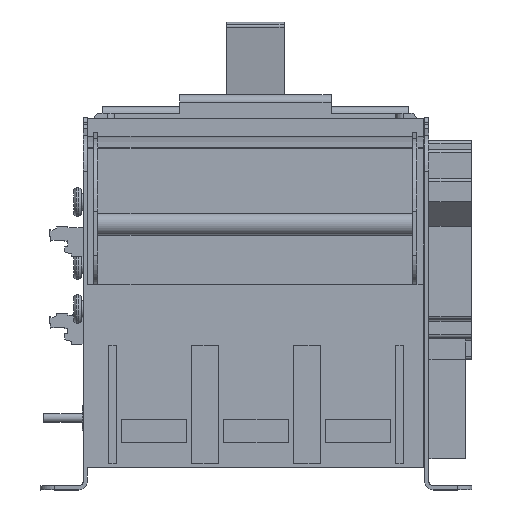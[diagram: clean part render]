
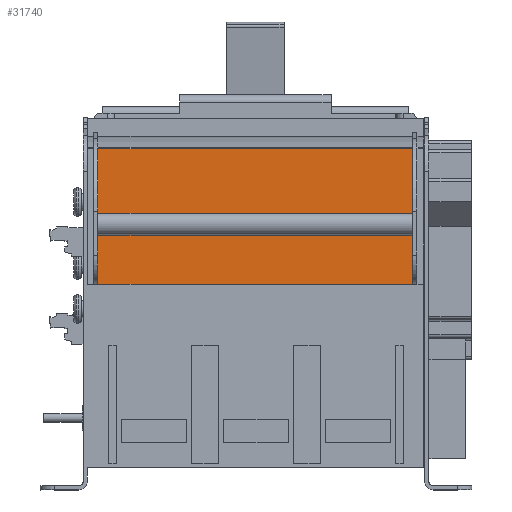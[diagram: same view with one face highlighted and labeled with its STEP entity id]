
A CAD part, front view. The second image highlights one B-rep face of the part: STEP entity #31740.
In plain terms, the highlighted planar face has unit normal (0, -1, 0).
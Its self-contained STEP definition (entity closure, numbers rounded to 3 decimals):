
#159 = VERTEX_POINT ( 'NONE', #8569 ) ;
#1025 = DIRECTION ( 'NONE',  ( 0., 0., -1. ) ) ;
#1980 = DIRECTION ( 'NONE',  ( 1., 0., 0. ) ) ;
#4590 = PLANE ( 'NONE',  #6857 ) ;
#5524 = CARTESIAN_POINT ( 'NONE',  ( -115.7, -203.55, 234.303 ) ) ;
#6030 = VECTOR ( 'NONE', #26075, 1000. ) ;
#6857 = AXIS2_PLACEMENT_3D ( 'NONE', #24297, #14196, #1025 ) ;
#8362 = ORIENTED_EDGE ( 'NONE', *, *, #33281, .T. ) ;
#8495 = CARTESIAN_POINT ( 'NONE',  ( -108., -203.55, 234.303 ) ) ;
#8569 = CARTESIAN_POINT ( 'NONE',  ( -108., -203.55, 234.303 ) ) ;
#9041 = LINE ( 'NONE', #8495, #25536 ) ;
#9497 = CARTESIAN_POINT ( 'NONE',  ( 108., -203.55, 234.303 ) ) ;
#12103 = CARTESIAN_POINT ( 'NONE',  ( -108., -203.55, 141.3 ) ) ;
#14196 = DIRECTION ( 'NONE',  ( 0., -1., 0. ) ) ;
#16887 = VECTOR ( 'NONE', #1980, 1000. ) ;
#16963 = LINE ( 'NONE', #34619, #26247 ) ;
#18430 = LINE ( 'NONE', #5524, #16887 ) ;
#19832 = ORIENTED_EDGE ( 'NONE', *, *, #30439, .T. ) ;
#24297 = CARTESIAN_POINT ( 'NONE',  ( -115.7, -203.55, 234.303 ) ) ;
#25536 = VECTOR ( 'NONE', #31381, 1000. ) ;
#26075 = DIRECTION ( 'NONE',  ( 0., 0., 1. ) ) ;
#26181 = LINE ( 'NONE', #9497, #6030 ) ;
#26231 = ORIENTED_EDGE ( 'NONE', *, *, #32447, .F. ) ;
#26247 = VECTOR ( 'NONE', #28435, 1000. ) ;
#28435 = DIRECTION ( 'NONE',  ( 1., 0., 0. ) ) ;
#30397 = CARTESIAN_POINT ( 'NONE',  ( 108., -203.55, 234.303 ) ) ;
#30439 = EDGE_CURVE ( 'NONE', #33361, #39373, #26181, .T. ) ;
#31381 = DIRECTION ( 'NONE',  ( 0., 0., 1. ) ) ;
#31740 = ADVANCED_FACE ( 'NONE', ( #36923 ), #4590, .T. ) ;
#32447 = EDGE_CURVE ( 'NONE', #159, #39373, #18430, .T. ) ;
#33281 = EDGE_CURVE ( 'NONE', #38590, #33361, #16963, .T. ) ;
#33361 = VERTEX_POINT ( 'NONE', #38498 ) ;
#34619 = CARTESIAN_POINT ( 'NONE',  ( -115.7, -203.55, 141.3 ) ) ;
#36923 = FACE_OUTER_BOUND ( 'NONE', #42435, .T. ) ;
#38498 = CARTESIAN_POINT ( 'NONE',  ( 108., -203.55, 141.3 ) ) ;
#38590 = VERTEX_POINT ( 'NONE', #12103 ) ;
#39373 = VERTEX_POINT ( 'NONE', #30397 ) ;
#39695 = EDGE_CURVE ( 'NONE', #38590, #159, #9041, .T. ) ;
#42435 = EDGE_LOOP ( 'NONE', ( #42567, #8362, #19832, #26231 ) ) ;
#42567 = ORIENTED_EDGE ( 'NONE', *, *, #39695, .F. ) ;
